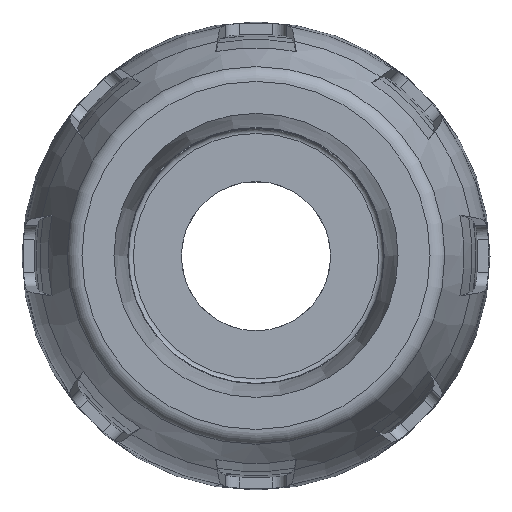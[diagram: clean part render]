
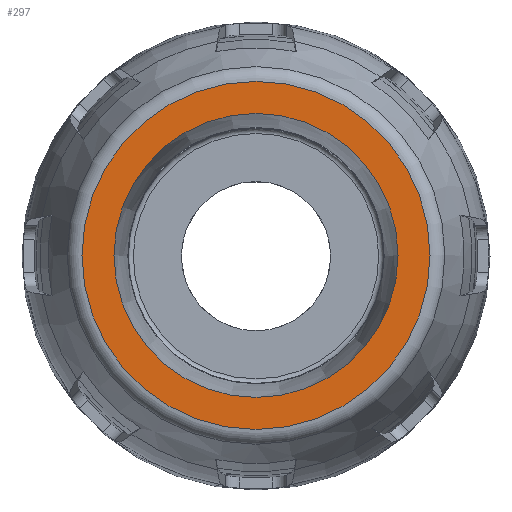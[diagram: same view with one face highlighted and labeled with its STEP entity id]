
A CAD part, top view. The second image highlights one B-rep face of the part: STEP entity #297.
In plain terms, the highlighted planar face has unit normal (0, 0, 1).
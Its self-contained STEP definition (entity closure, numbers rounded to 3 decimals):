
#297 = ADVANCED_FACE( '', ( #808, #809 ), #810, .T. );
#808 = FACE_OUTER_BOUND( '', #1605, .T. );
#809 = FACE_BOUND( '', #1606, .T. );
#810 = PLANE( '', #1607 );
#1605 = EDGE_LOOP( '', ( #2760 ) );
#1606 = EDGE_LOOP( '', ( #2761 ) );
#1607 = AXIS2_PLACEMENT_3D( '', #2762, #2763, #2764 );
#2760 = ORIENTED_EDGE( '', *, *, #4858, .F. );
#2761 = ORIENTED_EDGE( '', *, *, #4859, .F. );
#2762 = CARTESIAN_POINT( '', ( -714.358, 76.131, 21.918 ) );
#2763 = DIRECTION( '', ( 0., 0., 1. ) );
#2764 = DIRECTION( '', ( -1., 0., 0. ) );
#4858 = EDGE_CURVE( '', #5764, #5764, #5765, .T. );
#4859 = EDGE_CURVE( '', #5766, #5766, #5767, .T. );
#5764 = VERTEX_POINT( '', #7157 );
#5765 = CIRCLE( '', #7158, 27.727 );
#5766 = VERTEX_POINT( '', #7159 );
#5767 = CIRCLE( '', #7160, 22.627 );
#7157 = CARTESIAN_POINT( '', ( -709.257, 76.131, 21.918 ) );
#7158 = AXIS2_PLACEMENT_3D( '', #9615, #9616, #9617 );
#7159 = CARTESIAN_POINT( '', ( -714.358, 76.131, 21.918 ) );
#7160 = AXIS2_PLACEMENT_3D( '', #9618, #9619, #9620 );
#9615 = CARTESIAN_POINT( '', ( -736.985, 76.131, 21.918 ) );
#9616 = DIRECTION( '', ( 0., 0., -1. ) );
#9617 = DIRECTION( '', ( 1., 0., 0. ) );
#9618 = CARTESIAN_POINT( '', ( -736.985, 76.131, 21.918 ) );
#9619 = DIRECTION( '', ( 0., 0., 1. ) );
#9620 = DIRECTION( '', ( 1., 0., 0. ) );
